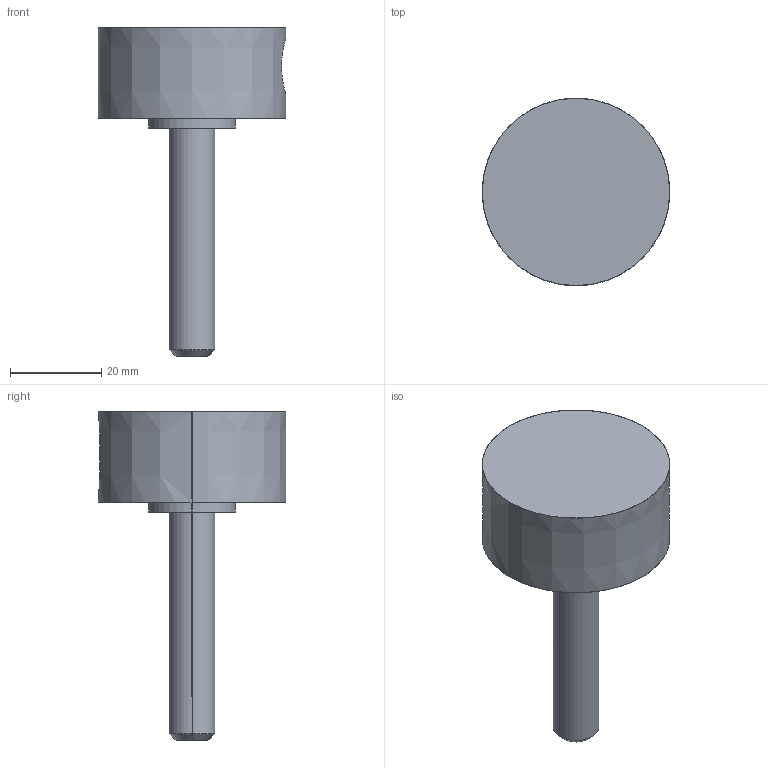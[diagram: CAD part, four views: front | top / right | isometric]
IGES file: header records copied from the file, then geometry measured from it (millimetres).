
Start section: SolidWorks IGES file using analytic representation for surfaces
Global section: file name: X:\11_SW2020-Inv2020\00_全2021-11新製品まで\f\FTN10X50\ftn10x50.IGS; native system: SolidWorks 2020; preprocessor: SolidWorks 2020; author: ImaoCorp; date: 211026.092459; units: millimetre
Bounding box: 41 x 41 x 72 mm (x, y, z)
Surface area: 7197.5 mm2 (no closed solid volume)
Topology: 0 solids, 0 shells, 18 faces, 472 edges, 472 vertices
Faces by surface type: revolution 12, bspline 6
